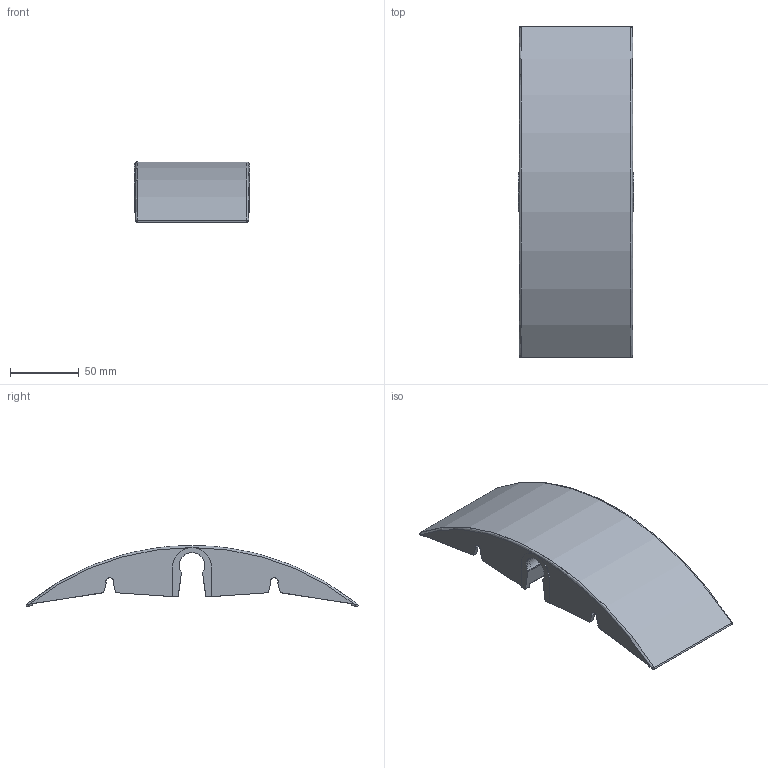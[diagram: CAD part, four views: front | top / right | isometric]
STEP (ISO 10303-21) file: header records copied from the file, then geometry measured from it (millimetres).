
FILE_DESCRIPTION(('CATIA V5 STEP Exchange'),'2;1');
FILE_NAME('X:\CODICI MOVEX\3D per clienti\Sergio Palazzo\2015\07-08-2015\P21302_01.stp','2015-08-07T06:31:42+00:00',('none'),('none'),'Version 5-6 Release 2012','CATIA V5 STEP AP203','none');
FILE_SCHEMA(('CONFIG_CONTROL_DESIGN'));
Length unit declared in the file: millimetre
Products named in the file (1): M21302_01
Bounding box: 84 x 242 x 44.48 mm (x, y, z)
Volume: 110570.3 mm3; surface area: 72517.5 mm2
Topology: 1 solids, 1 shells, 118 faces, 350 edges, 230 vertices
Faces by surface type: plane 60, cylinder 52, bspline 4, torus 2
Entity records: 4436 total; most frequent: CARTESIAN_POINT 1578, ORIENTED_EDGE 692, DIRECTION 419, EDGE_CURVE 346, VERTEX_POINT 230, VECTOR 210, LINE 210, AXIS2_PLACEMENT_3D 142
